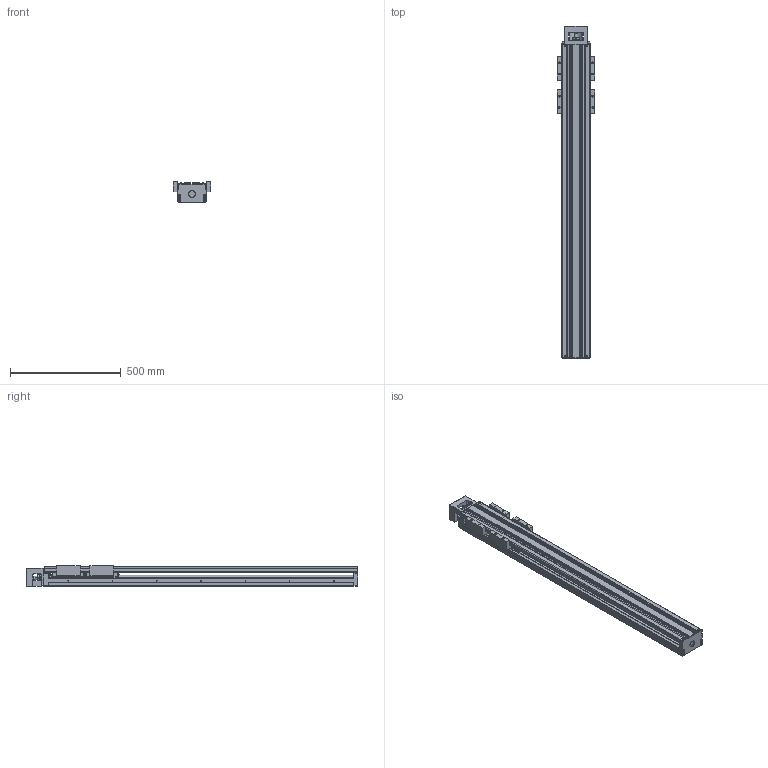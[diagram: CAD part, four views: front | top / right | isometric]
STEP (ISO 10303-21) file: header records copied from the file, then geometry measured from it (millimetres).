
FILE_DESCRIPTION(('no description'),'unknown implementation level');
FILE_NAME('KK13025P1380A2F0C00_FILE_11.stp',' ',('HIWIN GmbH'),('CADClick - KiM GmbH - www.kimweb.de'),'unknown preprocess','ACIS','unknown authorization');
FILE_SCHEMA(('automotive_design'));
Length unit declared in the file: millimetre
Products named in the file (3): KK13025P1380A2F0C00_FILE_1; KK130_FILE; KK13025P1380A2F0C00_FILE
Bounding box: 170 x 1498 x 94 mm (x, y, z)
Volume: 7724914.8 mm3; surface area: 1480069.2 mm2
Topology: 3 solids, 17 shells, 1292 faces, 3264 edges, 2104 vertices
Faces by surface type: plane 806, cylinder 422, torus 52, cone 8, sphere 4
Entity records: 76290 total; most frequent: DIRECTION 6902, CARTESIAN_POINT 6875, STYLED_ITEM 6659, PRESENTATION_STYLE_ASSIGNMENT 6659, COLOUR_RGB 6659, ORIENTED_EDGE 6520, EDGE_CURVE 3260, CURVE_STYLE 3260
